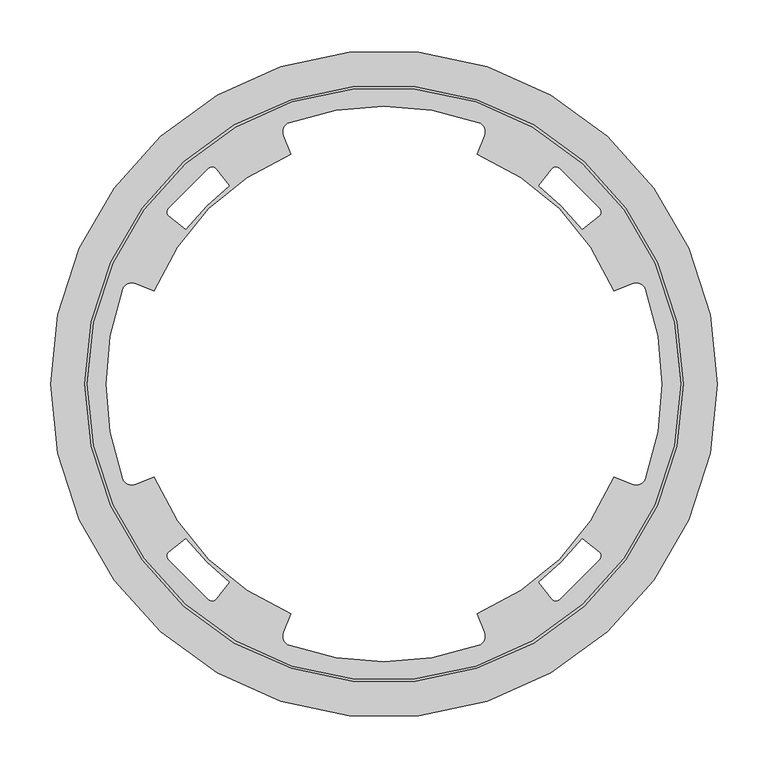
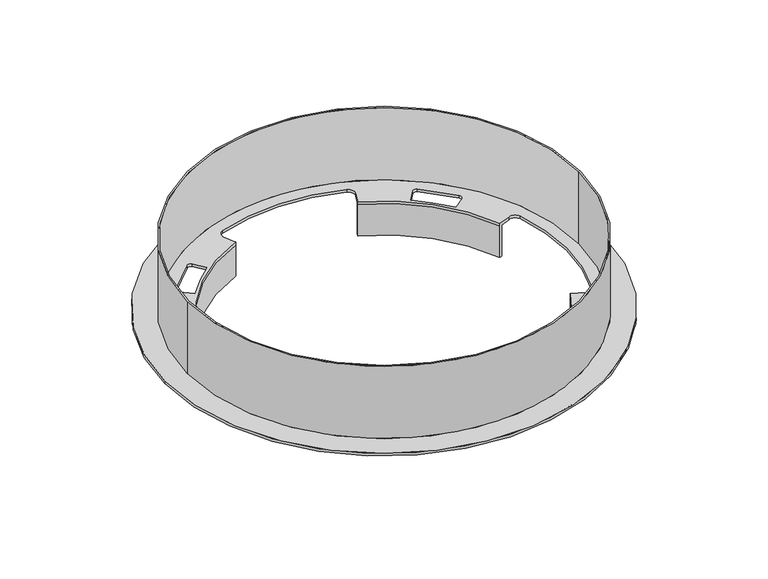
"""IFC4 building model written with IfcOpenShell, lengths in millimetres: proxy geometry, RSK C3 Chamber Adapter : RSK C3 C.A."""

from ifc_helpers import new_model, si_unit, frame, origin, origin_with_axes, place, context, project, spatial, polyline, circle_curve, source, transform, mapped, element, save
from ifc_brep_helpers import plane_surface, cylinder_surface, revolved_surface, advanced_brep


def generic_models_4d1d18dc(model_context):
    return source(origin(), model_context, "Body", "AdvancedBrep", [
        advanced_brep(
        [(-330.0, 0.0, 4.0), (330.0, 0.0, 4.0), (296.0, 0.0, 4.0), (-296.0, 0.0, 4.0), (293.5, 0.0, 4.0), (-293.5, 0.0, 4.0), (93.3217201, 258.6813804, 4.0), (99.2000416, 245.5287188, 4.0), (91.7786154, 227.1600444, 4.0), (227.1600444, 91.7786154, 4.0), (245.5287188, 99.2000416, 4.0), (258.6813804, 93.3217201, 4.0), (258.6813804, -93.3217201, 4.0), (245.5287188, -99.2000416, 4.0), (227.1600444, -91.7786154, 4.0), (91.7786154, -227.1600444, 4.0), (99.2000416, -245.5287188, 4.0), (93.3217201, -258.6813804, 4.0), (-93.3217201, -258.6813804, 4.0), (-99.2000416, -245.5287188, 4.0), (-91.7786154, -227.1600444, 4.0), (-227.1600444, -91.7786154, 4.0), (-245.5287188, -99.2000416, 4.0), (-258.6813804, -93.3217201, 4.0), (-258.6813804, 93.3217201, 4.0), (-245.5287188, 99.2000416, 4.0), (-227.1600444, 91.7786154, 4.0), (-91.7786154, 227.1600444, 4.0), (-99.2000416, 245.5287188, 4.0), (-93.3217201, 258.6813804, 4.0), (212.7264184, 166.200093, 4.0), (196.2146776, 153.2997074, 4.0), (153.2997074, 196.2146776, 4.0), (166.200093, 212.7264184, 4.0), (173.2908903, 213.5304834, 4.0), (213.5304834, 173.2908903, 4.0), (166.200093, -212.7264184, 4.0), (153.2997074, -196.2146776, 4.0), (196.2146776, -153.2997074, 4.0), (212.7264184, -166.200093, 4.0), (213.5304834, -173.2908903, 4.0), (173.2908903, -213.5304834, 4.0), (-212.7264184, 166.200093, 4.0), (-213.5304834, 173.2908903, 4.0), (-173.2908903, 213.5304834, 4.0), (-166.200093, 212.7264184, 4.0), (-153.2997074, 196.2146776, 4.0), (-196.2146776, 153.2997074, 4.0), (-166.200093, -212.7264184, 4.0), (-173.2908903, -213.5304834, 4.0), (-213.5304834, -173.2908903, 4.0), (-212.7264184, -166.200093, 4.0), (-196.2146776, -153.2997074, 4.0), (-153.2997074, -196.2146776, 4.0), (-330.0, 0.0, 0.0), (330.0, 0.0, 0.0), (93.3217201, 258.6813804, 0.0), (-93.3217201, 258.6813804, 0.0), (-99.2000416, 245.5287188, 0.0), (-93.2770418, 230.8687798, 0.0), (-153.2997074, 196.2146776, 0.0), (-166.200093, 212.7264184, 0.0), (-173.2908903, 213.5304834, 0.0), (-213.5304834, 173.2908903, 0.0), (-212.7264184, 166.200093, 0.0), (-196.2146776, 153.2997074, 0.0), (-230.8687798, 93.2770418, 0.0), (-245.5287188, 99.2000416, 0.0), (-258.6813804, 93.3217201, 0.0), (-258.6813804, -93.3217201, 0.0), (-245.5287188, -99.2000416, 0.0), (-230.8687798, -93.2770418, 0.0), (-196.2146776, -153.2997074, 0.0), (-212.7264184, -166.200093, 0.0), (-213.5304834, -173.2908903, 0.0), (-173.2908903, -213.5304834, 0.0), (-166.200093, -212.7264184, 0.0), (-153.2997074, -196.2146776, 0.0), (-93.2770418, -230.8687798, 0.0), (-99.2000416, -245.5287188, 0.0), (-93.3217201, -258.6813804, 0.0), (93.3217201, -258.6813804, 0.0), (99.2000416, -245.5287188, 0.0), (93.2770418, -230.8687798, 0.0), (153.2997074, -196.2146776, 0.0), (166.200093, -212.7264184, 0.0), (173.2908903, -213.5304834, 0.0), (213.5304834, -173.2908903, 0.0), (212.7264184, -166.200093, 0.0), (196.2146776, -153.2997074, 0.0), (230.8687798, -93.2770418, 0.0), (245.5287188, -99.2000416, 0.0), (258.6813804, -93.3217201, 0.0), (258.6813804, 93.3217201, 0.0), (245.5287188, 99.2000416, 0.0), (230.8687798, 93.2770418, 0.0), (196.2146776, 153.2997074, 0.0), (212.7264184, 166.200093, 0.0), (213.5304834, 173.2908903, 0.0), (173.2908903, 213.5304834, 0.0), (166.200093, 212.7264184, 0.0), (153.2997074, 196.2146776, 0.0), (93.2770418, 230.8687798, 0.0), (99.2000416, 245.5287188, 0.0), (-91.7786154, 227.1600444, 0.0), (-91.7786154, 227.1600444, -50.0), (-93.2770418, 230.8687798, -50.0), (-227.1600444, 91.7786154, 0.0), (-230.8687798, 93.2770418, -50.0), (-227.1600444, 91.7786154, -50.0), (-227.1600444, -91.7786154, 0.0), (-227.1600444, -91.7786154, -50.0), (-230.8687798, -93.2770418, -50.0), (-91.7786154, -227.1600444, 0.0), (-93.2770418, -230.8687798, -50.0), (-91.7786154, -227.1600444, -50.0), (91.7786154, -227.1600444, 0.0), (91.7786154, -227.1600444, -50.0), (93.2770418, -230.8687798, -50.0), (227.1600444, -91.7786154, 0.0), (230.8687798, -93.2770418, -50.0), (227.1600444, -91.7786154, -50.0), (227.1600444, 91.7786154, 0.0), (227.1600444, 91.7786154, -50.0), (230.8687798, 93.2770418, -50.0), (91.7786154, 227.1600444, 0.0), (93.2770418, 230.8687798, -50.0), (91.7786154, 227.1600444, -50.0), (-296.0, 0.0, 119.0), (296.0, 0.0, 119.0), (-293.5, 0.0, 119.0), (293.5, 0.0, 119.0)],
        [
            (0, 1, circle_curve(frame((0.0, 0.0, 4.0), z_axis=(0.0, 0.0, 1.0), x_axis=(1.0, 0.0, 0.0)), 330.0)),
            (1, 0, circle_curve(frame((0.0, 0.0, 4.0), z_axis=(0.0, 0.0, 1.0), x_axis=(1.0, 0.0, 0.0)), 330.0)),
            (2, 3, circle_curve(frame((0.0, 0.0, 4.0), z_axis=(0.0, 0.0, -1.0), x_axis=(1.0, 0.0, 0.0)), 296.0)),
            (3, 2, circle_curve(frame((0.0, 0.0, 4.0), z_axis=(0.0, 0.0, -1.0), x_axis=(1.0, 0.0, 0.0)), 296.0)),
            (4, 5, circle_curve(frame((0.0, 0.0, 4.0), z_axis=(0.0, 0.0, 1.0), x_axis=(1.0, 0.0, 0.0)), 293.5)),
            (5, 4, circle_curve(frame((0.0, 0.0, 4.0), z_axis=(0.0, 0.0, 1.0), x_axis=(1.0, 0.0, 0.0)), 293.5)),
            (6, 7, circle_curve(frame((89.928203, 249.2747847, 4.0), z_axis=(0.0, 0.0, -1.0), x_axis=(1.0, 0.0, 0.0)), 10.0)),
            (7, 8),
            (8, 9, circle_curve(frame((0.0, 0.0, 4.0), z_axis=(0.0, 0.0, -1.0), x_axis=(1.0, 0.0, 0.0)), 245.0)),
            (9, 10),
            (10, 11, circle_curve(frame((249.2747847, 89.928203, 4.0), z_axis=(0.0, 0.0, -1.0), x_axis=(1.0, 0.0, 0.0)), 10.0)),
            (11, 12, circle_curve(frame((0.0, 0.0, 4.0), z_axis=(0.0, 0.0, -1.0), x_axis=(1.0, 0.0, 0.0)), 275.0)),
            (12, 13, circle_curve(frame((249.2747847, -89.928203, 4.0), z_axis=(0.0, 0.0, -1.0), x_axis=(1.0, 0.0, 0.0)), 10.0)),
            (13, 14),
            (14, 15, circle_curve(frame((0.0, 0.0, 4.0), z_axis=(0.0, 0.0, -1.0), x_axis=(1.0, 0.0, 0.0)), 245.0)),
            (15, 16),
            (16, 17, circle_curve(frame((89.928203, -249.2747847, 4.0), z_axis=(0.0, 0.0, -1.0), x_axis=(1.0, 0.0, 0.0)), 10.0)),
            (17, 18, circle_curve(frame((0.0, 0.0, 4.0), z_axis=(0.0, 0.0, -1.0), x_axis=(1.0, 0.0, 0.0)), 275.0)),
            (18, 19, circle_curve(frame((-89.928203, -249.2747847, 4.0), z_axis=(0.0, 0.0, -1.0), x_axis=(1.0, 0.0, 0.0)), 10.0)),
            (19, 20),
            (20, 21, circle_curve(frame((0.0, 0.0, 4.0), z_axis=(0.0, 0.0, -1.0), x_axis=(1.0, 0.0, 0.0)), 245.0)),
            (21, 22),
            (22, 23, circle_curve(frame((-249.2747847, -89.928203, 4.0), z_axis=(0.0, 0.0, -1.0), x_axis=(1.0, 0.0, 0.0)), 10.0)),
            (23, 24, circle_curve(frame((0.0, 0.0, 4.0), z_axis=(0.0, 0.0, -1.0), x_axis=(1.0, 0.0, 0.0)), 275.0)),
            (24, 25, circle_curve(frame((-249.2747847, 89.928203, 4.0), z_axis=(0.0, 0.0, -1.0), x_axis=(1.0, 0.0, 0.0)), 10.0)),
            (25, 26),
            (26, 27, circle_curve(frame((0.0, 0.0, 4.0), z_axis=(0.0, 0.0, -1.0), x_axis=(1.0, 0.0, 0.0)), 245.0)),
            (27, 28),
            (28, 29, circle_curve(frame((-89.928203, 249.2747847, 4.0), z_axis=(0.0, 0.0, -1.0), x_axis=(1.0, 0.0, 0.0)), 10.0)),
            (29, 6, circle_curve(frame((0.0, 0.0, 4.0), z_axis=(0.0, 0.0, -1.0), x_axis=(1.0, 0.0, 0.0)), 275.0)),
            (30, 31),
            (31, 32, circle_curve(frame((0.0, 0.0, 4.0), z_axis=(0.0, 0.0, 1.0), x_axis=(1.0, 0.0, 0.0)), 249.0)),
            (32, 33),
            (33, 34, circle_curve(frame((170.1401468, 209.648111, 4.0), z_axis=(0.0, 0.0, -1.0), x_axis=(1.0, 0.0, 0.0)), 5.0)),
            (34, 35, circle_curve(frame((0.0, 0.0, 4.0), z_axis=(0.0, 0.0, -1.0), x_axis=(1.0, 0.0, 0.0)), 275.0)),
            (35, 30, circle_curve(frame((209.648111, 170.1401468, 4.0), z_axis=(0.0, 0.0, -1.0), x_axis=(1.0, 0.0, 0.0)), 5.0)),
            (36, 37),
            (37, 38, circle_curve(frame((0.0, 0.0, 4.0), z_axis=(0.0, 0.0, 1.0), x_axis=(0.0, -1.0, 0.0)), 249.0)),
            (38, 39),
            (39, 40, circle_curve(frame((209.648111, -170.1401468, 4.0), z_axis=(0.0, 0.0, -1.0), x_axis=(0.0, -1.0, 0.0)), 5.0)),
            (40, 41, circle_curve(frame((0.0, 0.0, 4.0), z_axis=(0.0, 0.0, -1.0), x_axis=(0.0, -1.0, 0.0)), 275.0)),
            (41, 36, circle_curve(frame((170.1401468, -209.648111, 4.0), z_axis=(0.0, 0.0, -1.0), x_axis=(0.0, -1.0, 0.0)), 5.0)),
            (42, 43, circle_curve(frame((-209.648111, 170.1401468, 4.0), z_axis=(0.0, 0.0, -1.0), x_axis=(-1.0, 0.0, 0.0)), 5.0)),
            (43, 44, circle_curve(frame((0.0, 0.0, 4.0), z_axis=(0.0, 0.0, -1.0), x_axis=(-1.0, 0.0, 0.0)), 275.0)),
            (44, 45, circle_curve(frame((-170.1401468, 209.648111, 4.0), z_axis=(0.0, 0.0, -1.0), x_axis=(-1.0, 0.0, 0.0)), 5.0)),
            (45, 46),
            (46, 47, circle_curve(frame((0.0, 0.0, 4.0), z_axis=(0.0, 0.0, 1.0), x_axis=(-1.0, 0.0, 0.0)), 249.0)),
            (47, 42),
            (48, 49, circle_curve(frame((-170.1401468, -209.648111, 4.0), z_axis=(0.0, 0.0, -1.0), x_axis=(0.0, -1.0, 0.0)), 5.0)),
            (49, 50, circle_curve(frame((0.0, 0.0, 4.0), z_axis=(0.0, 0.0, -1.0), x_axis=(0.0, -1.0, 0.0)), 275.0)),
            (50, 51, circle_curve(frame((-209.648111, -170.1401468, 4.0), z_axis=(0.0, 0.0, -1.0), x_axis=(0.0, -1.0, 0.0)), 5.0)),
            (51, 52),
            (52, 53, circle_curve(frame((0.0, 0.0, 4.0), z_axis=(0.0, 0.0, 1.0), x_axis=(0.0, -1.0, 0.0)), 249.0)),
            (53, 48),
            (54, 55, circle_curve(frame((0.0, 0.0, 0.0), z_axis=(0.0, 0.0, -1.0), x_axis=(1.0, 0.0, 0.0)), 330.0)),
            (55, 54, circle_curve(frame((0.0, 0.0, 0.0), z_axis=(0.0, 0.0, -1.0), x_axis=(1.0, 0.0, 0.0)), 330.0)),
            (56, 57, circle_curve(origin_with_axes(), 275.0)),
            (57, 58, circle_curve(frame((-89.928203, 249.2747847, 0.0), z_axis=(0.0, 0.0, 1.0), x_axis=(1.0, 0.0, 0.0)), 10.0)),
            (58, 59),
            (59, 60, circle_curve(frame((0.0, 0.0, 0.0), z_axis=(0.0, 0.0, 1.0), x_axis=(-1.0, 0.0, 0.0)), 249.0)),
            (60, 61),
            (61, 62, circle_curve(frame((-170.1401468, 209.648111, 0.0), z_axis=(0.0, 0.0, 1.0), x_axis=(-1.0, 0.0, 0.0)), 5.0)),
            (62, 63, circle_curve(frame((0.0, 0.0, 0.0), z_axis=(0.0, 0.0, 1.0), x_axis=(-1.0, 0.0, 0.0)), 275.0)),
            (63, 64, circle_curve(frame((-209.648111, 170.1401468, 0.0), z_axis=(0.0, 0.0, 1.0), x_axis=(-1.0, 0.0, 0.0)), 5.0)),
            (64, 65),
            (65, 66, circle_curve(frame((0.0, 0.0, 0.0), z_axis=(0.0, 0.0, 1.0), x_axis=(-1.0, 0.0, 0.0)), 249.0)),
            (66, 67),
            (67, 68, circle_curve(frame((-249.2747847, 89.928203, 0.0), z_axis=(0.0, 0.0, 1.0), x_axis=(1.0, 0.0, 0.0)), 10.0)),
            (68, 69, circle_curve(origin_with_axes(), 275.0)),
            (69, 70, circle_curve(frame((-249.2747847, -89.928203, 0.0), z_axis=(0.0, 0.0, 1.0), x_axis=(1.0, 0.0, 0.0)), 10.0)),
            (70, 71),
            (71, 72, circle_curve(frame((0.0, 0.0, 0.0), z_axis=(0.0, 0.0, 1.0), x_axis=(-1.0, 0.0, 0.0)), 249.0)),
            (72, 73),
            (73, 74, circle_curve(frame((-209.648111, -170.1401468, 0.0), z_axis=(0.0, 0.0, 1.0), x_axis=(0.0, -1.0, 0.0)), 5.0)),
            (74, 75, circle_curve(frame((0.0, 0.0, 0.0), z_axis=(0.0, 0.0, 1.0), x_axis=(0.0, -1.0, 0.0)), 275.0)),
            (75, 76, circle_curve(frame((-170.1401468, -209.648111, 0.0), z_axis=(0.0, 0.0, 1.0), x_axis=(0.0, -1.0, 0.0)), 5.0)),
            (76, 77),
            (77, 78, circle_curve(frame((0.0, 0.0, 0.0), z_axis=(0.0, 0.0, 1.0), x_axis=(-1.0, 0.0, 0.0)), 249.0)),
            (78, 79),
            (79, 80, circle_curve(frame((-89.928203, -249.2747847, 0.0), z_axis=(0.0, 0.0, 1.0), x_axis=(1.0, 0.0, 0.0)), 10.0)),
            (80, 81, circle_curve(origin_with_axes(), 275.0)),
            (81, 82, circle_curve(frame((89.928203, -249.2747847, 0.0), z_axis=(0.0, 0.0, 1.0), x_axis=(1.0, 0.0, 0.0)), 10.0)),
            (82, 83),
            (83, 84, circle_curve(origin_with_axes(), 249.0)),
            (84, 85),
            (85, 86, circle_curve(frame((170.1401468, -209.648111, 0.0), z_axis=(0.0, 0.0, 1.0), x_axis=(0.0, -1.0, 0.0)), 5.0)),
            (86, 87, circle_curve(frame((0.0, 0.0, 0.0), z_axis=(0.0, 0.0, 1.0), x_axis=(0.0, -1.0, 0.0)), 275.0)),
            (87, 88, circle_curve(frame((209.648111, -170.1401468, 0.0), z_axis=(0.0, 0.0, 1.0), x_axis=(0.0, -1.0, 0.0)), 5.0)),
            (88, 89),
            (89, 90, circle_curve(origin_with_axes(), 249.0)),
            (90, 91),
            (91, 92, circle_curve(frame((249.2747847, -89.928203, 0.0), z_axis=(0.0, 0.0, 1.0), x_axis=(1.0, 0.0, 0.0)), 10.0)),
            (92, 93, circle_curve(origin_with_axes(), 275.0)),
            (93, 94, circle_curve(frame((249.2747847, 89.928203, 0.0), z_axis=(0.0, 0.0, 1.0), x_axis=(1.0, 0.0, 0.0)), 10.0)),
            (94, 95),
            (95, 96, circle_curve(origin_with_axes(), 249.0)),
            (96, 97),
            (97, 98, circle_curve(frame((209.648111, 170.1401468, 0.0), z_axis=(0.0, 0.0, 1.0), x_axis=(1.0, 0.0, 0.0)), 5.0)),
            (98, 99, circle_curve(origin_with_axes(), 275.0)),
            (99, 100, circle_curve(frame((170.1401468, 209.648111, 0.0), z_axis=(0.0, 0.0, 1.0), x_axis=(1.0, 0.0, 0.0)), 5.0)),
            (100, 101),
            (101, 102, circle_curve(origin_with_axes(), 249.0)),
            (102, 103),
            (103, 56, circle_curve(frame((89.928203, 249.2747847, 0.0), z_axis=(0.0, 0.0, 1.0), x_axis=(1.0, 0.0, 0.0)), 10.0)),
            (29, 57),
            (56, 6),
            (28, 58),
            (27, 104),
            (104, 105),
            (105, 106),
            (106, 59),
            (26, 107),
            (107, 104, circle_curve(frame((0.0, 0.0, 0.0), z_axis=(0.0, 0.0, -1.0), x_axis=(1.0, 0.0, 0.0)), 245.0)),
            (25, 67),
            (66, 108),
            (108, 109),
            (109, 107),
            (24, 68),
            (23, 69),
            (22, 70),
            (21, 110),
            (110, 111),
            (111, 112),
            (112, 71),
            (20, 113),
            (113, 110, circle_curve(frame((0.0, 0.0, 0.0), z_axis=(0.0, 0.0, -1.0), x_axis=(1.0, 0.0, 0.0)), 245.0)),
            (19, 79),
            (78, 114),
            (114, 115),
            (115, 113),
            (18, 80),
            (17, 81),
            (16, 82),
            (15, 116),
            (116, 117),
            (117, 118),
            (118, 83),
            (14, 119),
            (119, 116, circle_curve(frame((0.0, 0.0, 0.0), z_axis=(0.0, 0.0, -1.0), x_axis=(1.0, 0.0, 0.0)), 245.0)),
            (13, 91),
            (90, 120),
            (120, 121),
            (121, 119),
            (12, 92),
            (11, 93),
            (10, 94),
            (9, 122),
            (122, 123),
            (123, 124),
            (124, 95),
            (8, 125),
            (125, 122, circle_curve(frame((0.0, 0.0, 0.0), z_axis=(0.0, 0.0, -1.0), x_axis=(1.0, 0.0, 0.0)), 245.0)),
            (7, 103),
            (102, 126),
            (126, 127),
            (127, 125),
            (1, 55),
            (54, 0),
            (35, 98),
            (97, 30),
            (34, 99),
            (33, 100),
            (32, 101),
            (31, 96),
            (96, 101, circle_curve(origin_with_axes(), 249.0)),
            (41, 86),
            (85, 36),
            (40, 87),
            (39, 88),
            (38, 89),
            (37, 84),
            (84, 89, circle_curve(frame((0.0, 0.0, 0.0), z_axis=(0.0, 0.0, 1.0), x_axis=(0.0, -1.0, 0.0)), 249.0)),
            (47, 65),
            (64, 42),
            (46, 60),
            (60, 65, circle_curve(frame((0.0, 0.0, 0.0), z_axis=(0.0, 0.0, 1.0), x_axis=(-1.0, 0.0, 0.0)), 249.0)),
            (45, 61),
            (44, 62),
            (43, 63),
            (53, 77),
            (76, 48),
            (52, 72),
            (72, 77, circle_curve(frame((0.0, 0.0, 0.0), z_axis=(0.0, 0.0, 1.0), x_axis=(0.0, -1.0, 0.0)), 249.0)),
            (51, 73),
            (50, 74),
            (49, 75),
            (128, 129, circle_curve(frame((0.0, 0.0, 119.0), z_axis=(0.0, 0.0, 1.0), x_axis=(1.0, 0.0, 0.0)), 296.0)),
            (129, 128, circle_curve(frame((0.0, 0.0, 119.0), z_axis=(0.0, 0.0, 1.0), x_axis=(1.0, 0.0, 0.0)), 296.0)),
            (130, 131, circle_curve(frame((0.0, 0.0, 119.0), z_axis=(0.0, 0.0, -1.0), x_axis=(1.0, 0.0, 0.0)), 293.5)),
            (131, 130, circle_curve(frame((0.0, 0.0, 119.0), z_axis=(0.0, 0.0, -1.0), x_axis=(1.0, 0.0, 0.0)), 293.5)),
            (131, 4),
            (5, 130),
            (129, 2),
            (3, 128),
            (111, 115, circle_curve(frame((0.0, 0.0, -50.0), z_axis=(0.0, 0.0, 1.0), x_axis=(-1.0, 0.0, 0.0)), 245.0)),
            (114, 112, circle_curve(frame((0.0, 0.0, -50.0), z_axis=(0.0, 0.0, -1.0), x_axis=(-1.0, 0.0, 0.0)), 249.0)),
            (123, 127, circle_curve(frame((0.0, 0.0, -50.0), z_axis=(0.0, 0.0, 1.0), x_axis=(1.0, 0.0, 0.0)), 245.0)),
            (126, 124, circle_curve(frame((0.0, 0.0, -50.0), z_axis=(0.0, 0.0, -1.0), x_axis=(1.0, 0.0, 0.0)), 249.0)),
            (108, 106, circle_curve(frame((0.0, 0.0, -50.0), z_axis=(0.0, 0.0, -1.0), x_axis=(-1.0, 0.0, 0.0)), 249.0)),
            (105, 109, circle_curve(frame((0.0, 0.0, -50.0), z_axis=(0.0, 0.0, 1.0), x_axis=(-1.0, 0.0, 0.0)), 245.0)),
            (120, 118, circle_curve(frame((0.0, 0.0, -50.0), z_axis=(0.0, 0.0, -1.0), x_axis=(1.0, 0.0, 0.0)), 249.0)),
            (117, 121, circle_curve(frame((0.0, 0.0, -50.0), z_axis=(0.0, 0.0, 1.0), x_axis=(1.0, 0.0, 0.0)), 245.0)),
        ],
        [
            plane_surface(frame((275.0, 0.0, 4.0), z_axis=(0.0, 0.0, 1.0), x_axis=(0.0, 1.0, 0.0))),
            plane_surface(frame((275.0, 0.0, 0.0), z_axis=(0.0, 0.0, -1.0), x_axis=(0.0, -1.0, 0.0))),
            revolved_surface(polyline([(275.0, 0.0, 0.0), (275.0, 0.0, 4.0)]), (0.0, 0.0, 0.0), (0.0, 0.0, -1.0)),
            revolved_surface(polyline([(-79.928203, 249.2747847, 0.0), (-79.928203, 249.2747847, 4.0)]), (-89.928203, 249.2747847, 0.0), (0.0, 0.0, -1.0)),
            plane_surface(frame((-99.2000416, 245.5287188, 4.0), z_axis=(0.9271838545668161, 0.3746065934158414, 0.0), x_axis=(0.0, 0.0, -1.0))),
            revolved_surface(polyline([(245.0, 0.0, 0.0), (245.0, 0.0, 4.0)]), (0.0, 0.0, 0.0), (0.0, 0.0, -1.0)),
            plane_surface(frame((-227.1600444, 91.7786154, 4.0), z_axis=(-0.3746065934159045, -0.9271838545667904, 0.0), x_axis=(0.0, 0.0, -1.0))),
            revolved_surface(polyline([(-239.2747847, 89.928203, 0.0), (-239.2747847, 89.928203, 4.0)]), (-249.2747847, 89.928203, 0.0), (0.0, 0.0, -1.0)),
            revolved_surface(polyline([(-239.2747847, -89.928203, 0.0), (-239.2747847, -89.928203, 4.0)]), (-249.2747847, -89.928203, 0.0), (0.0, 0.0, -1.0)),
            plane_surface(frame((-245.5287188, -99.2000416, 4.0), z_axis=(-0.37460659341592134, 0.9271838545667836, 0.0), x_axis=(0.0, 0.0, -1.0))),
            plane_surface(frame((-91.7786154, -227.1600444, 4.0), z_axis=(0.9271838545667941, -0.3746065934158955, 0.0), x_axis=(0.0, 0.0, -1.0))),
            revolved_surface(polyline([(-79.928203, -249.2747847, 0.0), (-79.928203, -249.2747847, 4.0)]), (-89.928203, -249.2747847, 0.0), (0.0, 0.0, -1.0)),
            revolved_surface(polyline([(99.928203, -249.2747847, 0.0), (99.928203, -249.2747847, 4.0)]), (89.928203, -249.2747847, 0.0), (0.0, 0.0, -1.0)),
            plane_surface(frame((99.2000416, -245.5287188, 4.0), z_axis=(-0.9271838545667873, -0.37460659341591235, 0.0), x_axis=(0.0, 0.0, -1.0))),
            plane_surface(frame((227.1600444, -91.7786154, 4.0), z_axis=(0.3746065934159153, 0.9271838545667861, 0.0), x_axis=(0.0, 0.0, -1.0))),
            revolved_surface(polyline([(259.2747847, -89.928203, 0.0), (259.2747847, -89.928203, 4.0)]), (249.2747847, -89.928203, 0.0), (0.0, 0.0, -1.0)),
            revolved_surface(polyline([(259.2747847, 89.928203, 0.0), (259.2747847, 89.928203, 4.0)]), (249.2747847, 89.928203, 0.0), (0.0, 0.0, -1.0)),
            plane_surface(frame((245.5287188, 99.2000416, 4.0), z_axis=(0.3746065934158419, -0.9271838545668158, 0.0), x_axis=(0.0, 0.0, -1.0))),
            plane_surface(frame((91.7786154, 227.1600444, 4.0), z_axis=(-0.9271838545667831, 0.37460659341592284, 0.0), x_axis=(0.0, 0.0, -1.0))),
            revolved_surface(polyline([(99.928203, 249.2747847, 0.0), (99.928203, 249.2747847, 4.0)]), (89.928203, 249.2747847, 0.0), (0.0, 0.0, -1.0)),
            cylinder_surface(origin_with_axes(), 330.0),
            revolved_surface(polyline([(214.648111, 170.1401468, 0.0), (214.648111, 170.1401468, 4.0)]), (209.648111, 170.1401468, 0.0), (0.0, 0.0, -1.0)),
            revolved_surface(polyline([(175.1401468, 209.648111, 0.0), (175.1401468, 209.648111, 4.0)]), (170.1401468, 209.648111, 0.0), (0.0, 0.0, -1.0)),
            plane_surface(frame((166.200093, 212.7264184, 4.0), z_axis=(0.7880107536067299, -0.6156614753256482, 0.0), x_axis=(0.0, 0.0, -1.0))),
            cylinder_surface(origin_with_axes(), 249.0),
            plane_surface(frame((196.2146776, 153.2997074, 4.0), z_axis=(-0.6156614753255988, 0.7880107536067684, 0.0), x_axis=(0.0, 0.0, -1.0))),
            revolved_surface(polyline([(170.1401468, -214.648111, 0.0), (170.1401468, -214.648111, 4.0)]), (170.1401468, -209.648111, 0.0), (0.0, 0.0, -1.0)),
            revolved_surface(polyline([(0.0, -275.0, 0.0), (0.0, -275.0, 4.0)]), (0.0, 0.0, 0.0), (0.0, 0.0, -1.0)),
            revolved_surface(polyline([(209.648111, -175.1401468, 0.0), (209.648111, -175.1401468, 4.0)]), (209.648111, -170.1401468, 0.0), (0.0, 0.0, -1.0)),
            plane_surface(frame((212.7264184, -166.200093, 4.0), z_axis=(-0.615661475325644, -0.7880107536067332, 0.0), x_axis=(0.0, 0.0, -1.0))),
            cylinder_surface(frame((0.0, 0.0, 0.0), z_axis=(0.0, 0.0, 1.0), x_axis=(0.0, -1.0, 0.0)), 249.0),
            plane_surface(frame((153.2997074, -196.2146776, 4.0), z_axis=(0.7880107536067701, 0.6156614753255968, 0.0), x_axis=(0.0, 0.0, -1.0))),
            plane_surface(frame((-212.7264184, 166.200093, 4.0), z_axis=(0.6156614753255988, 0.7880107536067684, 0.0), x_axis=(0.0, 0.0, -1.0))),
            cylinder_surface(frame((0.0, 0.0, 0.0), z_axis=(0.0, 0.0, 1.0), x_axis=(-1.0, 0.0, 0.0)), 249.0),
            plane_surface(frame((-153.2997074, 196.2146776, 4.0), z_axis=(-0.7880107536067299, -0.6156614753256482, 0.0), x_axis=(0.0, 0.0, -1.0))),
            revolved_surface(polyline([(-175.1401468, 209.648111, 0.0), (-175.1401468, 209.648111, 4.0)]), (-170.1401468, 209.648111, 0.0), (0.0, 0.0, -1.0)),
            revolved_surface(polyline([(-275.0, 0.0, 0.0), (-275.0, 0.0, 4.0)]), (0.0, 0.0, 0.0), (0.0, 0.0, -1.0)),
            revolved_surface(polyline([(-214.648111, 170.1401468, 0.0), (-214.648111, 170.1401468, 4.0)]), (-209.648111, 170.1401468, 0.0), (0.0, 0.0, -1.0)),
            plane_surface(frame((-166.200093, -212.7264184, 4.0), z_axis=(-0.7880107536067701, 0.6156614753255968, 0.0), x_axis=(0.0, 0.0, -1.0))),
            plane_surface(frame((-196.2146776, -153.2997074, 4.0), z_axis=(0.615661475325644, -0.7880107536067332, 0.0), x_axis=(0.0, 0.0, -1.0))),
            revolved_surface(polyline([(-209.648111, -175.1401468, 0.0), (-209.648111, -175.1401468, 4.0)]), (-209.648111, -170.1401468, 0.0), (0.0, 0.0, -1.0)),
            revolved_surface(polyline([(-170.1401468, -214.648111, 0.0), (-170.1401468, -214.648111, 4.0)]), (-170.1401468, -209.648111, 0.0), (0.0, 0.0, -1.0)),
            plane_surface(frame((293.5, 0.0, 119.0), z_axis=(0.0, 0.0, 1.0), x_axis=(0.0, 1.0, 0.0))),
            revolved_surface(polyline([(293.5, 0.0, 4.0), (293.5, 0.0, 119.0)]), (0.0, 0.0, 4.0), (0.0, 0.0, -1.0)),
            cylinder_surface(origin_with_axes(), 296.0),
            plane_surface(frame((-245.0, 0.0, -50.0), z_axis=(0.0, 0.0, -1.0), x_axis=(0.0, 1.0, 0.0))),
            cylinder_surface(frame((0.0, 0.0, -50.0), z_axis=(0.0, 0.0, 1.0), x_axis=(-1.0, 0.0, 0.0)), 249.0),
            revolved_surface(polyline([(-245.0, 0.0, -50.0), (-245.0, 0.0, 0.0)]), (0.0, 0.0, -50.0), (0.0, 0.0, -1.0)),
            plane_surface(frame((245.0, 0.0, -50.0), z_axis=(0.0, 0.0, -1.0), x_axis=(0.0, -1.0, 0.0))),
            cylinder_surface(frame((0.0, 0.0, -50.0), z_axis=(0.0, 0.0, 1.0), x_axis=(1.0, 0.0, 0.0)), 249.0),
            revolved_surface(polyline([(245.0, 0.0, -50.0), (245.0, 0.0, 0.0)]), (0.0, 0.0, -50.0), (0.0, 0.0, -1.0)),
            plane_surface(frame((-227.1600444, 91.7786154, -50.0), z_axis=(0.0, 0.0, -1.0), x_axis=(0.9271838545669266, -0.3746065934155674, 0.0))),
            plane_surface(frame((227.1600444, -91.7786154, -50.0), z_axis=(0.0, 0.0, -1.0), x_axis=(-0.9271838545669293, 0.37460659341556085, 0.0))),
        ],
        [
            (0, [[1, 2], [3, 4]]),
            (0, [[5, 6], [7, 8, 9, 10, 11, 12, 13, 14, 15, 16, 17, 18, 19, 20, 21, 22, 23, 24, 25, 26, 27, 28, 29, 30], [31, 32, 33, 34, 35, 36], [37, 38, 39, 40, 41, 42], [43, 44, 45, 46, 47, 48], [49, 50, 51, 52, 53, 54]]),
            (1, [[55, 56], [57, 58, 59, 60, 61, 62, 63, 64, 65, 66, 67, 68, 69, 70, 71, 72, 73, 74, 75, 76, 77, 78, 79, 80, 81, 82, 83, 84, 85, 86, 87, 88, 89, 90, 91, 92, 93, 94, 95, 96, 97, 98, 99, 100, 101, 102, 103, 104]]),
            (2, [[105, -57, 106, -30]]),
            (3, [[107, -58, -105, -29]]),
            (4, [[108, 109, 110, 111, -59, -107, -28]]),
            (5, [[112, 113, -108, -27]]),
            (6, [[114, -67, 115, 116, 117, -112, -26]]),
            (7, [[118, -68, -114, -25]]),
            (2, [[119, -69, -118, -24]]),
            (8, [[120, -70, -119, -23]]),
            (9, [[121, 122, 123, 124, -71, -120, -22]]),
            (5, [[125, 126, -121, -21]]),
            (10, [[127, -79, 128, 129, 130, -125, -20]]),
            (11, [[131, -80, -127, -19]]),
            (2, [[132, -81, -131, -18]]),
            (12, [[133, -82, -132, -17]]),
            (13, [[134, 135, 136, 137, -83, -133, -16]]),
            (5, [[138, 139, -134, -15]]),
            (14, [[140, -91, 141, 142, 143, -138, -14]]),
            (15, [[144, -92, -140, -13]]),
            (2, [[145, -93, -144, -12]]),
            (16, [[146, -94, -145, -11]]),
            (17, [[147, 148, 149, 150, -95, -146, -10]]),
            (5, [[151, 152, -147, -9]]),
            (18, [[153, -103, 154, 155, 156, -151, -8]]),
            (19, [[-106, -104, -153, -7]]),
            (20, [[157, -55, 158, -2]]),
            (20, [[-158, -56, -157, -1]]),
            (21, [[159, -98, 160, -36]]),
            (2, [[161, -99, -159, -35]]),
            (22, [[162, -100, -161, -34]]),
            (23, [[163, -101, -162, -33]]),
            (24, [[164, 165, -163, -32]]),
            (25, [[-160, -97, -164, -31]]),
            (26, [[166, -86, 167, -42]]),
            (27, [[168, -87, -166, -41]]),
            (28, [[169, -88, -168, -40]]),
            (29, [[170, -89, -169, -39]]),
            (30, [[171, 172, -170, -38]]),
            (31, [[-167, -85, -171, -37]]),
            (32, [[173, -65, 174, -48]]),
            (33, [[175, 176, -173, -47]]),
            (34, [[177, -61, -175, -46]]),
            (35, [[178, -62, -177, -45]]),
            (36, [[179, -63, -178, -44]]),
            (37, [[-174, -64, -179, -43]]),
            (38, [[180, -77, 181, -54]]),
            (30, [[182, 183, -180, -53]]),
            (39, [[184, -73, -182, -52]]),
            (40, [[185, -74, -184, -51]]),
            (27, [[186, -75, -185, -50]]),
            (41, [[-181, -76, -186, -49]]),
            (42, [[187, 188], [189, 190]]),
            (43, [[191, -6, 192, -190]]),
            (43, [[-192, -5, -191, -189]]),
            (44, [[193, -4, 194, -188]]),
            (44, [[-194, -3, -193, -187]]),
            (45, [[195, -129, 196, -123]]),
            (46, [[-128, -78, -183, -72, -124, -196]]),
            (47, [[-122, -126, -130, -195]]),
            (48, [[197, -155, 198, -149]]),
            (49, [[-154, -102, -165, -96, -150, -198]]),
            (50, [[-148, -152, -156, -197]]),
            (51, [[-116, 199, -110, 200]]),
            (46, [[-115, -66, -176, -60, -111, -199]]),
            (47, [[-109, -113, -117, -200]]),
            (52, [[-142, 201, -136, 202]]),
            (49, [[-141, -90, -172, -84, -137, -201]]),
            (50, [[-135, -139, -143, -202]]),
        ],
    ),
    ])


if __name__ == "__main__":
    model = new_model("IFC4")
    model_context = context("Model", 3, world=origin())
    ifc_project = project(units=[si_unit("LENGTHUNIT", "METRE", prefix="MILLI")], contexts=[model_context])
    site = spatial("IfcSite", under=ifc_project)
    building = spatial("IfcBuilding", under=site)
    placement = place(None, origin())
    generic_models_shape = generic_models_4d1d18dc(model_context)
    element("IfcBuildingElementProxy", 1, Name="RSK C3 Chamber Adapter : RSK C3 C.A", ObjectType="RSK C3 Chamber Adapter : RSK C3 C.A", at=placement, inside=building, context=model_context, shape_type="MappedRepresentation", body=[
        mapped(generic_models_shape, transform((0.0, 0.0, 0.0), x_axis=(1.0, 0.0, 0.0), y_axis=(0.0, 1.0, 0.0), z_axis=(0.0, 0.0, 1.0))),
    ])
    save(model, "model.ifc")
